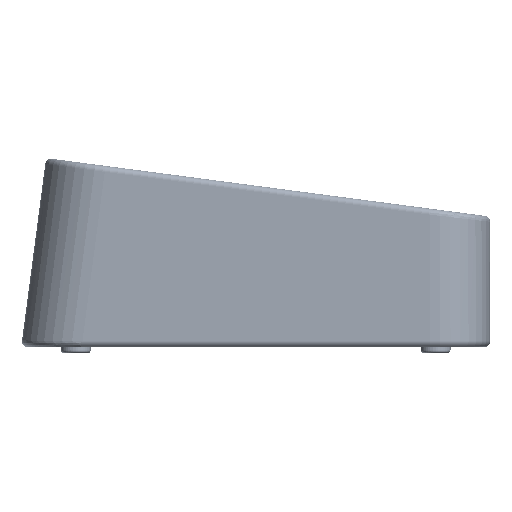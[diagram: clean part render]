
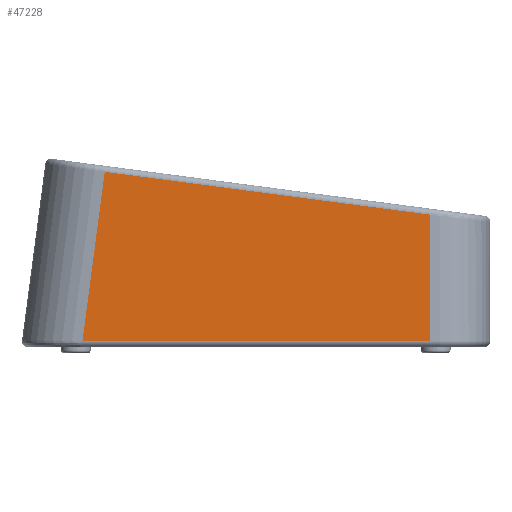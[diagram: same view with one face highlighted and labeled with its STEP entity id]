
A CAD part, left-side view. The second image highlights one B-rep face of the part: STEP entity #47228.
In plain terms, the highlighted planar face has unit normal (-1, 0, 0).
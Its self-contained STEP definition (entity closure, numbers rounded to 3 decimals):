
#1482=PLANE('',#51530);
#4189=FACE_OUTER_BOUND('',#7034,.T.);
#7034=EDGE_LOOP('',(#42055,#42056,#42057,#42058));
#13967=LINE('',#115917,#17683);
#13973=LINE('',#115983,#17689);
#13974=LINE('',#115987,#17690);
#13975=LINE('',#115988,#17691);
#17683=VECTOR('',#63280,10.);
#17689=VECTOR('',#63316,10.);
#17690=VECTOR('',#63321,10.);
#17691=VECTOR('',#63322,10.);
#22199=VERTEX_POINT('',#115909);
#22201=VERTEX_POINT('',#115915);
#22210=VERTEX_POINT('',#115982);
#22211=VERTEX_POINT('',#115986);
#28999=EDGE_CURVE('',#22201,#22199,#13967,.T.);
#29015=EDGE_CURVE('',#22199,#22210,#13973,.T.);
#29017=EDGE_CURVE('',#22211,#22201,#13974,.T.);
#29018=EDGE_CURVE('',#22210,#22211,#13975,.T.);
#42055=ORIENTED_EDGE('',*,*,#28999,.F.);
#42056=ORIENTED_EDGE('',*,*,#29017,.F.);
#42057=ORIENTED_EDGE('',*,*,#29018,.F.);
#42058=ORIENTED_EDGE('',*,*,#29015,.F.);
#47228=ADVANCED_FACE('',(#4189),#1482,.T.);
#51530=AXIS2_PLACEMENT_3D('',#115985,#63319,#63320);
#63280=DIRECTION('',(0.,1.,0.));
#63316=DIRECTION('',(0.,-0.131,0.991));
#63319=DIRECTION('center_axis',(-1.,0.,0.));
#63320=DIRECTION('ref_axis',(0.,0.,1.));
#63321=DIRECTION('',(0.,0.,-1.));
#63322=DIRECTION('',(0.,-0.991,-0.131));
#115909=CARTESIAN_POINT('',(-105.013,28.863,1.));
#115915=CARTESIAN_POINT('',(-105.013,-29.081,1.));
#115917=CARTESIAN_POINT('',(-105.013,-19.541,1.));
#115982=CARTESIAN_POINT('',(-105.013,25.146,29.235));
#115983=CARTESIAN_POINT('',(-105.013,27.814,8.972));
#115985=CARTESIAN_POINT('Origin',(-105.013,0.,15.766));
#115986=CARTESIAN_POINT('',(-105.013,-29.081,22.096));
#115987=CARTESIAN_POINT('',(-105.013,-29.081,18.777));
#115988=CARTESIAN_POINT('',(-105.013,16.873,28.146));
